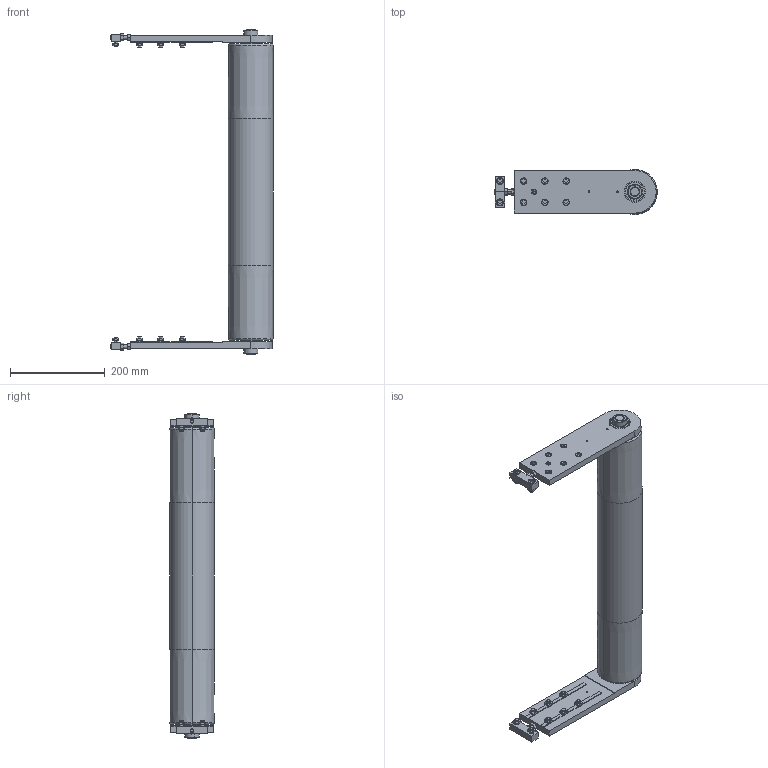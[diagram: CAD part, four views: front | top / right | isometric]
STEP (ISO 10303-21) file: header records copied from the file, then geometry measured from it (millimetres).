
FILE_DESCRIPTION (( 'STEP AP203' ), '1' );
FILE_NAME ('084.095.KI.600.STEP', '2014-04-07T12:24:30', ( '' ), ( '' ), 'SwSTEP 2.0', 'SolidWorks 2012', '' );
FILE_SCHEMA (( 'CONFIG_CONTROL_DESIGN' ));
Length unit declared in the file: millimetre
Products named in the file (10): 084.095.KI.600; Circlip DIN 471 - 30 x 1.5_Circlip DIN 471 - 30 x 1.5; 084.803.003; 084.802.019_084.802.019; 084.810.003; 084.808.002_084.808.002; 084.812.003; 084.816.110_084.816.110<A macchina>; 084.302.000 DADI ALUSIC 13x13_084.302.004; 084.301.000 VITI ALUSIC_084.301.003
Assembly tree (45 placements, depth 2):
  084.095.KI.600
    084.301.000 VITI ALUSIC_084.301.003  x16
    084.302.000 DADI ALUSIC 13x13_084.302.004  x16
    084.816.110_084.816.110<A macchina>
    084.812.003  x2
    084.808.002_084.808.002  x2
    084.810.003  x2
    084.802.019_084.802.019  x2
    084.803.003  x2
    Circlip DIN 471 - 30 x 1.5_Circlip DIN 471 - 30 x 1.5  x2
Bounding box: 343.5 x 95 x 685 mm (x, y, z)
Volume: 2066157.6 mm3; surface area: 867720.8 mm2
Topology: 51 solids, 53 shells, 1074 faces, 2612 edges, 1702 vertices
Faces by surface type: plane 499, cylinder 347, torus 108, cone 64, bspline 48, sphere 8
Entity records: 14202 total; most frequent: CARTESIAN_POINT 2603, DIRECTION 2122, ORIENTED_EDGE 1920, EDGE_CURVE 960, AXIS2_PLACEMENT_3D 833, VERTEX_POINT 630, LINE 456, VECTOR 456
